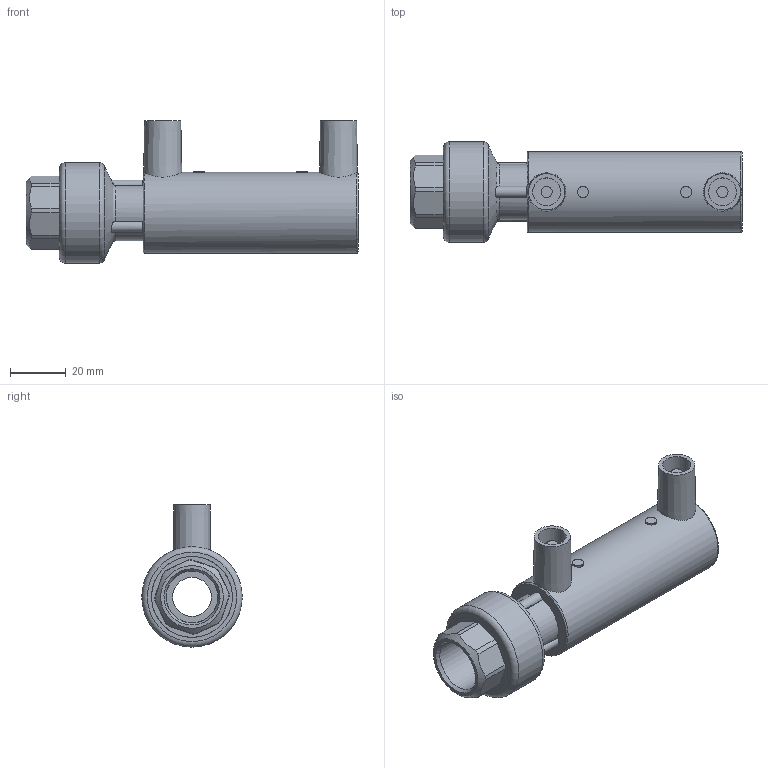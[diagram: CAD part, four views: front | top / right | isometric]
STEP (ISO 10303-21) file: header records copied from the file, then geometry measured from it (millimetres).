
FILE_DESCRIPTION(/* description */ ('Unknown'),/* implementation_level */ '2;1');
FILE_NAME(/* name */ 'MTFP020C.PF',/* time_stamp */ '2021-11-10T15:23:00+01:00',/* author */ ('Unknown'),/* organization */ ('Unknown'),/* preprocessor_version */ 'ST-DEVELOPER v16.7',/* originating_system */ 'Solid Edge',/* authorisation */ 'Unknown');
FILE_SCHEMA (('AUTOMOTIVE_DESIGN {1 0 10303 214 3 1 1}'));
Length unit declared in the file: millimetre
Products named in the file (5): MTFP020C.PF; MP020C.PF; RTOFP020C; Parte PE 020; IOF020
Assembly tree (4 placements, depth 3):
  MTFP020C.PF
    MP020C.PF
    RTOFP020C
      Parte PE 020
      IOF020
Bounding box: 119 x 36 x 51 mm (x, y, z)
Volume: 53464.9 mm3; surface area: 32013.4 mm2
Topology: 3 solids, 3 shells, 234 faces, 572 edges, 351 vertices
Faces by surface type: plane 115, cylinder 60, torus 38, bspline 15, cone 6
Full cylindrical faces by diameter (mm): 4 x4, 10 x2, 14 x1, 18.5 x3, 18.631 x1, 20 x2, 21.5 x2, 25 x4, 26.4 x2, 29 x9, 36 x1
Entity records: 7503 total; most frequent: CARTESIAN_POINT 1465, DIRECTION 1152, ORIENTED_EDGE 988, EDGE_CURVE 494, AXIS2_PLACEMENT_3D 478, VERTEX_POINT 332, EDGE_LOOP 306, FACE_BOUND 306
